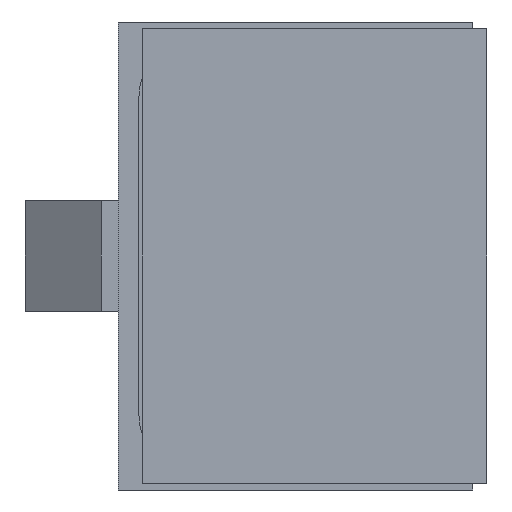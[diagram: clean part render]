
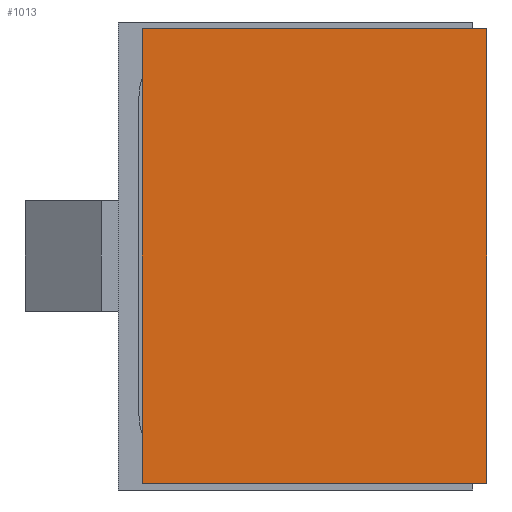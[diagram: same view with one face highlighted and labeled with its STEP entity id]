
A CAD part, left-side view. The second image highlights one B-rep face of the part: STEP entity #1013.
In plain terms, the highlighted planar face has unit normal (-1, 0, 0).
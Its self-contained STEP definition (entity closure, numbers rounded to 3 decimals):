
#847 = EDGE_CURVE ( 'NONE', #931, #929, #2045, .T. ) ;
#929 = VERTEX_POINT ( 'NONE', #2235 ) ;
#931 = VERTEX_POINT ( 'NONE', #2234 ) ;
#1001 = EDGE_CURVE ( 'NONE', #1002, #931, #2374, .T. ) ;
#1002 = VERTEX_POINT ( 'NONE', #2312 ) ;
#1013 = ADVANCED_FACE ( 'NONE', ( #2327 ), #2326, .F. ) ;
#1017 = EDGE_LOOP ( 'NONE', ( #1018, #1101, #1103, #1019 ) ) ;
#1018 = ORIENTED_EDGE ( 'NONE', *, *, #847, .T. ) ;
#1019 = ORIENTED_EDGE ( 'NONE', *, *, #1001, .T. ) ;
#1101 = ORIENTED_EDGE ( 'NONE', *, *, #1102, .F. ) ;
#1102 = EDGE_CURVE ( 'NONE', #1131, #929, #2493, .T. ) ;
#1103 = ORIENTED_EDGE ( 'NONE', *, *, #1125, .F. ) ;
#1125 = EDGE_CURVE ( 'NONE', #1002, #1131, #2471, .T. ) ;
#1131 = VERTEX_POINT ( 'NONE', #2512 ) ;
#2042 = DIRECTION ( 'NONE',  ( 0., -1., 0. ) ) ;
#2043 = VECTOR ( 'NONE', #2042, 1000. ) ;
#2044 = CARTESIAN_POINT ( 'NONE',  ( 0., 0., 0. ) ) ;
#2045 = LINE ( 'NONE', #2044, #2043 ) ;
#2234 = CARTESIAN_POINT ( 'NONE',  ( 0., 25., 0. ) ) ;
#2235 = CARTESIAN_POINT ( 'NONE',  ( 0., 0., 0. ) ) ;
#2301 = DIRECTION ( 'NONE',  ( 0., 0., -1. ) ) ;
#2302 = DIRECTION ( 'NONE',  ( 1., 0., 0. ) ) ;
#2303 = CARTESIAN_POINT ( 'NONE',  ( 0., 0., 33. ) ) ;
#2304 = AXIS2_PLACEMENT_3D ( 'NONE', #2303, #2302, #2301 ) ;
#2312 = CARTESIAN_POINT ( 'NONE',  ( 0., 25., 33. ) ) ;
#2313 = DIRECTION ( 'NONE',  ( 0., 0., -1. ) ) ;
#2314 = VECTOR ( 'NONE', #2313, 1000. ) ;
#2326 = PLANE ( 'NONE',  #2304 ) ;
#2327 = FACE_OUTER_BOUND ( 'NONE', #1017, .T. ) ;
#2373 = CARTESIAN_POINT ( 'NONE',  ( 0., 25., 33. ) ) ;
#2374 = LINE ( 'NONE', #2373, #2314 ) ;
#2468 = DIRECTION ( 'NONE',  ( 0., -1., 0. ) ) ;
#2469 = VECTOR ( 'NONE', #2468, 1000. ) ;
#2470 = CARTESIAN_POINT ( 'NONE',  ( 0., 0., 33. ) ) ;
#2471 = LINE ( 'NONE', #2470, #2469 ) ;
#2490 = DIRECTION ( 'NONE',  ( 0., 0., -1. ) ) ;
#2491 = VECTOR ( 'NONE', #2490, 1000. ) ;
#2492 = CARTESIAN_POINT ( 'NONE',  ( 0., 0., 33. ) ) ;
#2493 = LINE ( 'NONE', #2492, #2491 ) ;
#2512 = CARTESIAN_POINT ( 'NONE',  ( 0., 0., 33. ) ) ;
